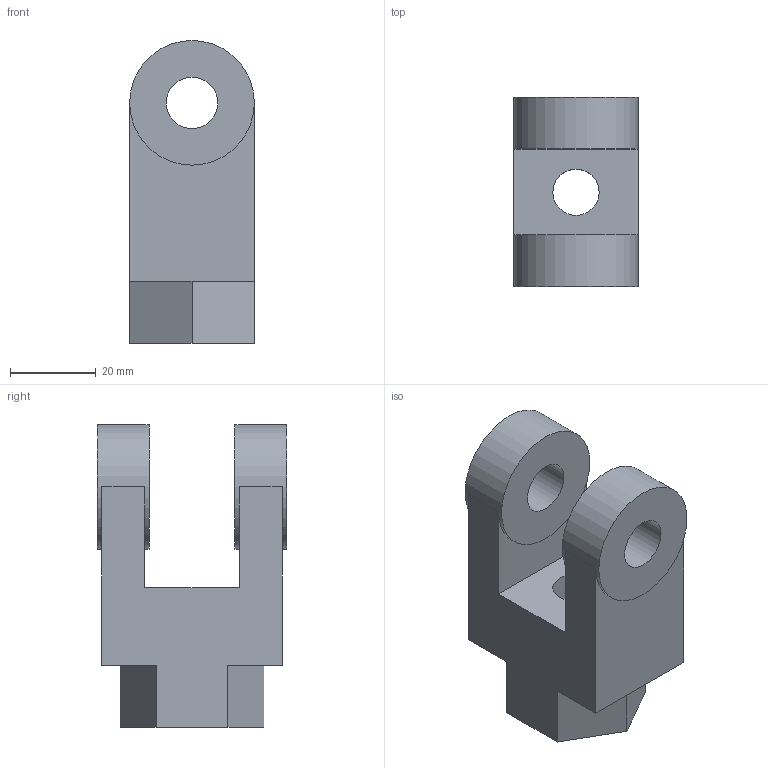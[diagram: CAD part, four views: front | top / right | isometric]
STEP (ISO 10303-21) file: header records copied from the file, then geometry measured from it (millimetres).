
FILE_DESCRIPTION(/* description */ ('Unknown'),/* implementation_level */ '2;1');
FILE_NAME(/* name */ 'WA40_Y',/* time_stamp */ '2026-07-17T17:01:44+08:00',/* author */ ('Unknown'),/* organization */ ('Unknown'),/* preprocessor_version */ 'ST-DEVELOPER v16.7',/* originating_system */ 'DEX',/* authorisation */ $);
FILE_SCHEMA (('CONFIG_CONTROL_DESIGN'));
Length unit declared in the file: millimetre
Products named in the file (1): WA40_Y
Bounding box: 29 x 44 x 70.5 mm (x, y, z)
Volume: 49697.9 mm3; surface area: 13499.6 mm2
Topology: 1 solids, 1 shells, 23 faces, 66 edges, 45 vertices
Faces by surface type: plane 18, cylinder 5
Full cylindrical faces by diameter (mm): 10.75 x1, 12 x2, 29 x2
Entity records: 857 total; most frequent: DIRECTION 114, CARTESIAN_POINT 114, ORIENTED_EDGE 104, EDGE_CURVE 52, VERTEX_POINT 38, LINE 38, VECTOR 38, AXIS2_PLACEMENT_3D 38
